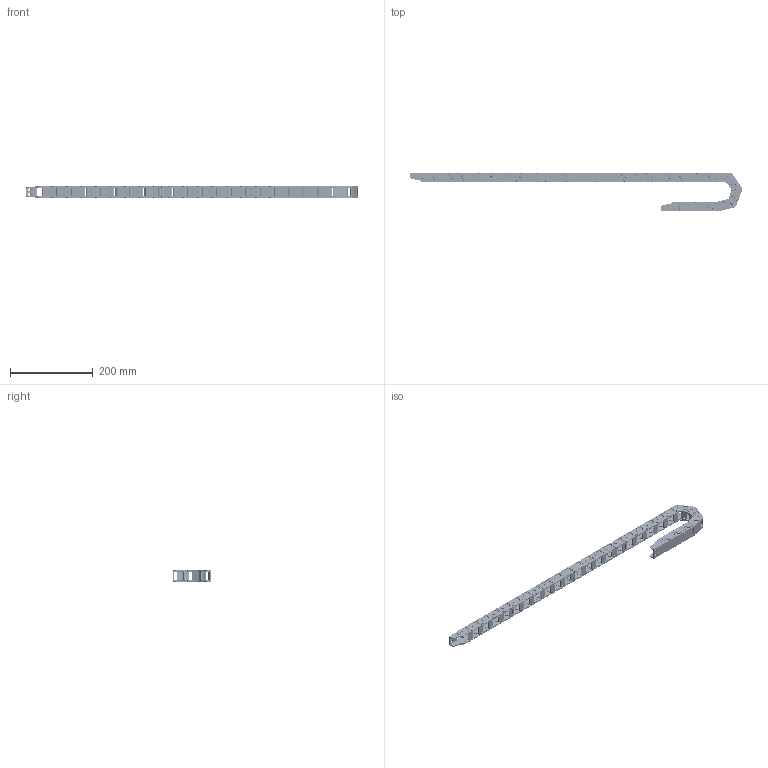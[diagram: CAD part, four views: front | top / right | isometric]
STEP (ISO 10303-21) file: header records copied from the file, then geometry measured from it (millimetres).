
FILE_DESCRIPTION(/* description */ (''),/* implementation_level */ '2;1');
FILE_NAME(/* name */ 'BF18X18R38.prt.stp',/* time_stamp */ '2022-11-17T15:03:06+08:00',/* author */ (''),/* organization */ (''),/* preprocessor_version */ 'ST-DEVELOPER v16',/* originating_system */ 'SIEMENS PLM Software NX 10.0',/* authorisation */ '');
FILE_SCHEMA (('CONFIG_CONTROL_DESIGN'));
Products named in the file (1): BF18X18R38
Bounding box: 804.33 x 94.31 x 29.7 mm (x, y, z)
Volume: 258674.1 mm3; surface area: 245775.5 mm2
Topology: 56 solids, 56 shells, 14645 faces, 38895 edges, 25331 vertices
Faces by surface type: plane 7390, cylinder 2864, bspline 2789, torus 834, extrusion 756, cone 8, sphere 4
Full cylindrical faces by diameter (mm): 4 x54
Entity records: 597196 total; most frequent: CARTESIAN_POINT 251661, ORIENTED_EDGE 77082, DIRECTION 61382, EDGE_CURVE 38541, VERTEX_POINT 25304, VECTOR 24524, LINE 23768, AXIS2_PLACEMENT_3D 18429
